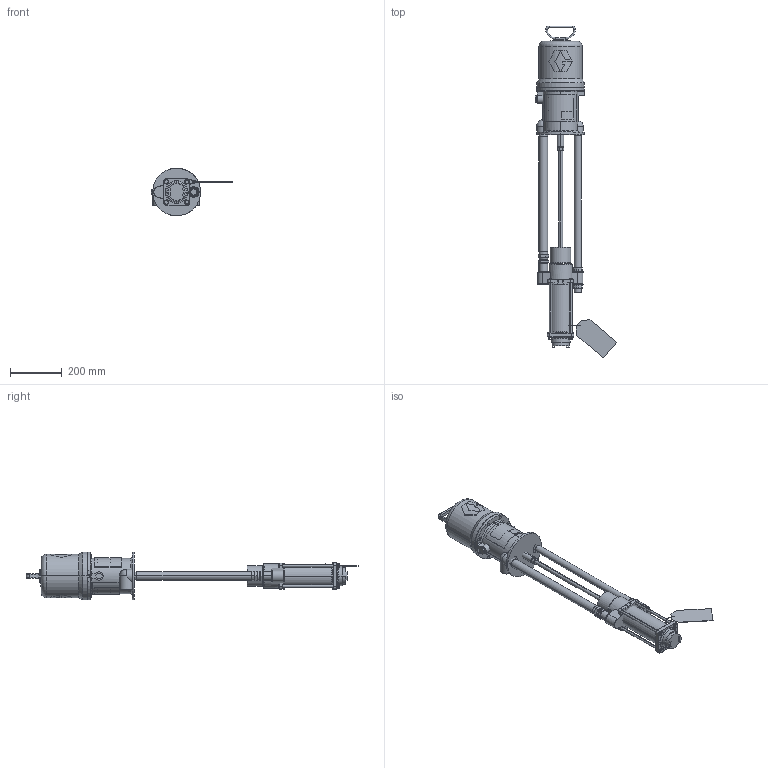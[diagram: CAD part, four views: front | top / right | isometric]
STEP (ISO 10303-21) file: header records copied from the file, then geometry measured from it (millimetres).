
FILE_DESCRIPTION((''),'2;1');
FILE_NAME('223183-EN-W_PRT','2022-10-27T14:08:20',('qusrh3'),(''),'CREO PARAMETRIC BY PTC INC, 2021072','CREO PARAMETRIC BY PTC INC, 2021072','');
FILE_SCHEMA(('CONFIG_CONTROL_DESIGN'));
Length unit declared in the file: inch
Products named in the file (1): 223183-EN-W_PRT
Bounding box: 314.65 x 1280.12 x 184.15 mm (x, y, z)
Surface area: 733026.3 mm2 (no closed solid volume)
Topology: 0 solids, 73 shells, 470 faces, 1507 edges, 1066 vertices
Faces by surface type: plane 163, cylinder 158, cone 118, torus 27, sphere 2, bspline 2
Entity records: 17690 total; most frequent: CARTESIAN_POINT 5052, DIRECTION 2648, ORIENTED_EDGE 2311, EDGE_CURVE 1505, VERTEX_POINT 1066, AXIS2_PLACEMENT_3D 1010, VECTOR 628, LINE 628
